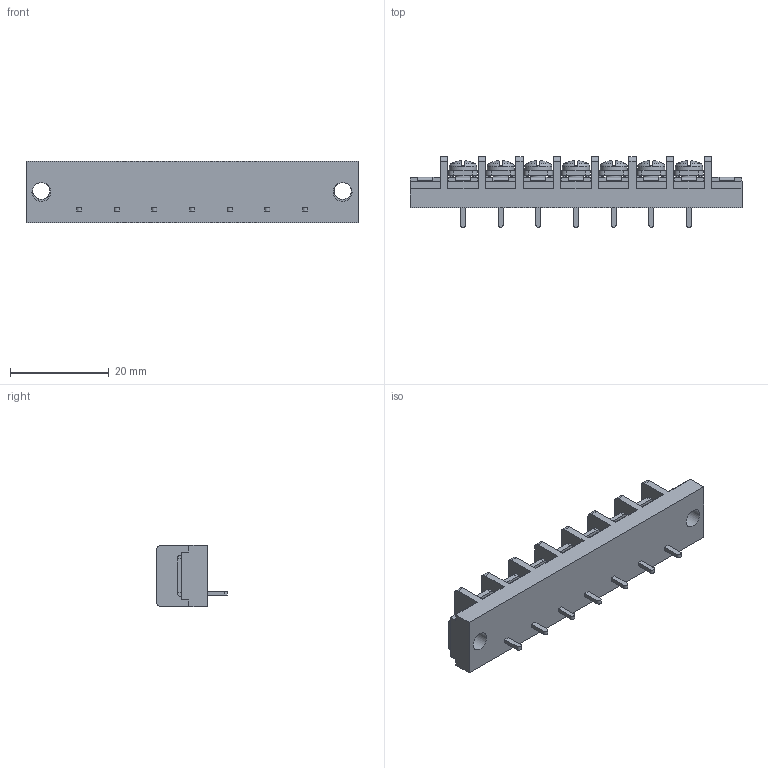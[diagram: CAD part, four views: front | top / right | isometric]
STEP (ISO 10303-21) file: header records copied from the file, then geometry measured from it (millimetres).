
FILE_DESCRIPTION(/* description */ ('Alibre Inc.'),/* implementation_level */ '2;1');
FILE_NAME(/* name */ 'export0',/* time_stamp */ '2015-10-26T17:33:14+09:00',/* author */ (''),/* organization */ (''),/* preprocessor_version */ 'ST-DEVELOPER v14',/* originating_system */ 'Alibre',/* authorisation */ '');
FILE_SCHEMA (('CONFIG_CONTROL_DESIGN'));
Length unit declared in the file: centimetre
Products named in the file (1): ID_1
Bounding box: 67.16 x 14.3 x 12.5 mm (x, y, z)
Volume: 5691.7 mm3; surface area: 5165.6 mm2
Topology: 1 solids, 17 shells, 1122 faces, 3047 edges, 2009 vertices
Faces by surface type: plane 868, bspline 104, cylinder 94, cone 28, torus 14, sphere 14
Full cylindrical faces by diameter (mm): 3 x7, 3.5 x2, 3.8 x2, 5.5 x7
Entity records: 33534 total; most frequent: CARTESIAN_POINT 7506, ORIENTED_EDGE 5966, DIRECTION 4055, EDGE_CURVE 2983, VECTOR 2156, LINE 2156, VERTEX_POINT 1977, AXIS2_PLACEMENT_3D 1341
